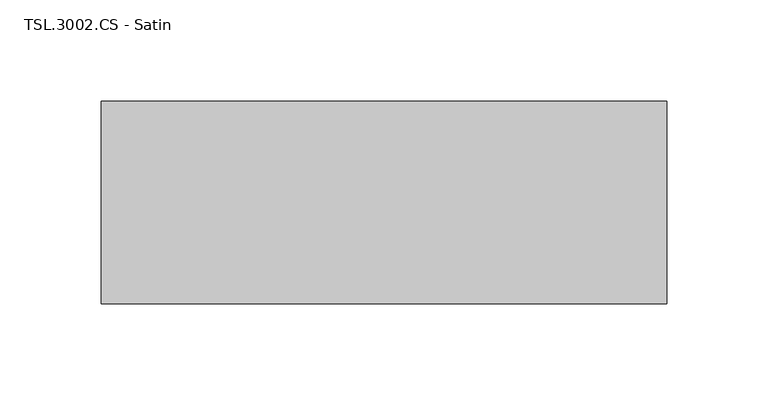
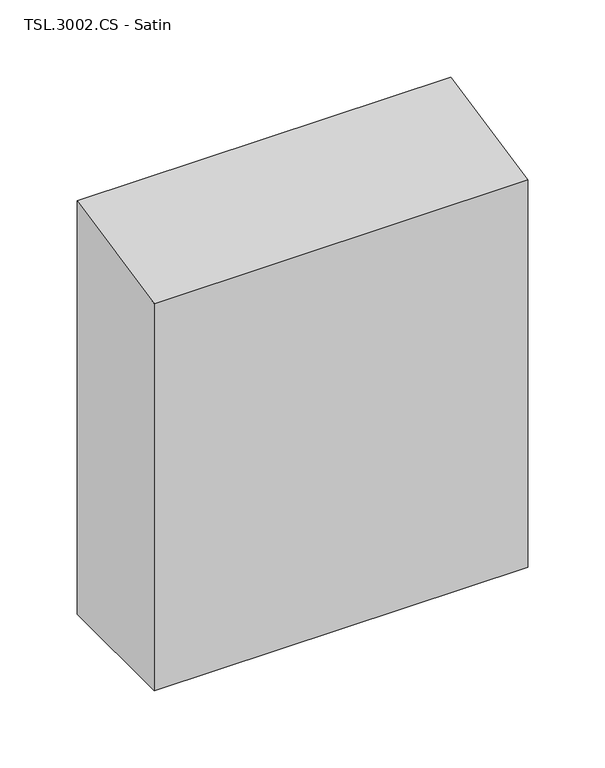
"""IFC4 building model written with IfcOpenShell, lengths in millimetres: proxy geometry, TSL_UK - TSL3002 - Hand Dryer : TSL.3002.CS - Satin."""

import ifcopenshell
import ifcopenshell.guid

model = None  # the IFC model being written
_history = None  # IfcOwnerHistory: only IFC2X3 demands one
_inside = {}  # id of a spatial element -> (the spatial element, [elements in it])
_under = {}  # id of a project, library or spatial element -> (it, [spatial elements below it])
_declared = {}  # id of a project -> (the project, [libraries it declares])
_typed = {}  # id of a type object -> (the type object, [elements of that type])
_made_of = {}  # id of a material, layer set ... -> (it, [elements and type objects made of it])


def new_model(schema):
    """Start an empty IFC model of exactly this schema.

    Asked for "IFC4X3", IfcOpenShell would pick the latest addendum, in which some entities
    have other attributes; the version numbers below select the first issue.
    IFC2X3 requires an IfcOwnerHistory on every rooted entity: one is made here for all.
    """
    global model, _history
    if schema == "IFC4X3":
        model = ifcopenshell.file(schema_version=(4, 3, 0, 0))
    else:
        model = ifcopenshell.file(schema=schema)
    _inside.clear()
    _under.clear()
    _declared.clear()
    _typed.clear()
    _made_of.clear()
    _history = None
    if model.schema == "IFC2X3":
        org = make("IfcOrganization", Name="unknown")
        user = make(
            "IfcPersonAndOrganization",
            ThePerson=make("IfcPerson", FamilyName="unknown"),
            TheOrganization=org,
        )
        app = make(
            "IfcApplication",
            ApplicationDeveloper=org,
            Version="unknown",
            ApplicationFullName="unknown",
            ApplicationIdentifier="unknown",
        )
        _history = make(
            "IfcOwnerHistory",
            OwningUser=user,
            OwningApplication=app,
            ChangeAction="ADDED",
            CreationDate=0,
        )
    return model


def make(cls, **values):
    """One entity of the class cls with the attributes given. An attribute that is None is left unset."""
    return model.create_entity(
        cls, **{name: value for name, value in values.items() if value is not None}
    )


def rooted(cls, **values):
    """An entity with a GlobalId (a new one), such as an element, a storey or a relation."""
    return make(cls, GlobalId=ifcopenshell.guid.new(), OwnerHistory=_history, **values)


def si_unit(unit_type, name, prefix=None):
    """IfcSIUnit, for example si_unit("LENGTHUNIT", "METRE", prefix="MILLI")."""
    return make("IfcSIUnit", UnitType=unit_type, Prefix=prefix, Name=name)


def assignment(units):
    """IfcUnitAssignment: the units of a project."""
    return None if units is None else make("IfcUnitAssignment", Units=units)


def point(xyz):
    """IfcCartesianPoint."""
    return None if xyz is None else make("IfcCartesianPoint", Coordinates=xyz)


def direction(xyz):
    """IfcDirection."""
    return None if xyz is None else make("IfcDirection", DirectionRatios=xyz)


def frame(location, z_axis=None, x_axis=None):
    """IfcAxis2Placement3D, a coordinate frame: its origin and axes. An axis left out is left unset."""
    return make(
        "IfcAxis2Placement3D",
        Location=point(location),
        Axis=direction(z_axis),
        RefDirection=direction(x_axis),
    )


def origin():
    """The frame at (0, 0, 0) with its axes left unset."""
    return frame((0.0, 0.0, 0.0))


def place(relative_to, where):
    """IfcLocalPlacement: puts the frame where relative to a parent placement (None: the world)."""
    return make(
        "IfcLocalPlacement", PlacementRelTo=relative_to, RelativePlacement=where
    )


def context(
    kind, dimensions, precision=None, world=None, true_north=None, identifier=None
):
    """IfcGeometricRepresentationContext, for example the 3D "Model" context."""
    return make(
        "IfcGeometricRepresentationContext",
        ContextIdentifier=identifier,
        ContextType=kind,
        CoordinateSpaceDimension=dimensions,
        Precision=precision,
        WorldCoordinateSystem=world,
        TrueNorth=true_north,
    )


def project(units=None, contexts=None):
    """IfcProject with its units and contexts."""
    return rooted(
        "IfcProject",
        Name="project",
        RepresentationContexts=contexts,
        UnitsInContext=assignment(units),
    )


def spatial(cls, under=None, at=None, **own):
    """A site, building, storey or space (cls), placed at a placement, below another one or the project."""
    s = rooted(cls, ObjectPlacement=at, **own)
    if under is not None:
        _under.setdefault(under.id(), (under, []))[1].append(s)
    return s


def polyline(points):
    """IfcPolyline through the points."""
    return make("IfcPolyline", Points=[point(p) for p in points])


def outline(outer, holes=None, kind="AREA"):
    """IfcArbitraryClosedProfileDef: a profile drawn as a closed curve; with holes, ...WithVoids."""
    if holes is None:
        return make("IfcArbitraryClosedProfileDef", ProfileType=kind, OuterCurve=outer)
    return make(
        "IfcArbitraryProfileDefWithVoids",
        ProfileType=kind,
        OuterCurve=outer,
        InnerCurves=holes,
    )


def extrude(swept, where, along, depth):
    """IfcExtrudedAreaSolid: the profile swept, set in the frame where, extruded along a direction by depth."""
    return make(
        "IfcExtrudedAreaSolid",
        SweptArea=swept,
        Position=where,
        ExtrudedDirection=direction(along),
        Depth=depth,
    )


def shape(context_of_items, identifier, shape_type, items):
    """IfcShapeRepresentation: the items that make up one representation, for example the "Body"."""
    return make(
        "IfcShapeRepresentation",
        ContextOfItems=context_of_items,
        RepresentationIdentifier=identifier,
        RepresentationType=shape_type,
        Items=items,
    )


def source(mapping_origin, context_of_items, identifier, shape_type, items):
    """IfcRepresentationMap: a shape defined once, which mapped items show again and again."""
    return make(
        "IfcRepresentationMap",
        MappingOrigin=mapping_origin,
        MappedRepresentation=shape(context_of_items, identifier, shape_type, items),
    )


def transform(
    local_origin,
    x_axis=None,
    y_axis=None,
    z_axis=None,
    scale=None,
    scale2=None,
    scale3=None,
    uniform=True,
):
    """IfcCartesianTransformationOperator3D, or its non-uniform kind. x_axis, y_axis, z_axis: its Axis1, 2, 3."""
    if uniform:
        return make(
            "IfcCartesianTransformationOperator3D",
            Axis1=direction(x_axis),
            Axis2=direction(y_axis),
            LocalOrigin=point(local_origin),
            Scale=scale,
            Axis3=direction(z_axis),
        )
    return make(
        "IfcCartesianTransformationOperator3DnonUniform",
        Axis1=direction(x_axis),
        Axis2=direction(y_axis),
        LocalOrigin=point(local_origin),
        Scale=scale,
        Axis3=direction(z_axis),
        Scale2=scale2,
        Scale3=scale3,
    )


def mapped(mapping_source, mapping_target):
    """IfcMappedItem: shows the shape of a source again, moved by a transform."""
    return make(
        "IfcMappedItem", MappingSource=mapping_source, MappingTarget=mapping_target
    )


def made_of(thing, what):
    """Note that an element or type object is made of a material, layer set ...; save() writes the relation."""
    if what is not None:
        _made_of.setdefault(what.id(), (what, []))[1].append(thing)
    return thing


def element(
    cls,
    number,
    at=None,
    inside=None,
    cuts=None,
    type_object=None,
    material=None,
    context=None,
    identifier="Body",
    shape_type=None,
    held_by="IfcProductDefinitionShape",
    body=None,
    shapes=None,
    **own,
):
    """One element of the class cls, such as IfcWall. Its Tag is "e" and its number.

    at: its placement. inside: the storey or other place that contains it. cuts: it is an
    opening in that element (IfcRelVoidsElement). A single representation is given by context,
    identifier, shape_type and body (its items); several are given by shapes. held_by: the class
    of the entity that holds the representations. save() writes the other relations.
    """
    e = rooted(cls, Tag="e%d" % number, ObjectPlacement=at, **own)
    if body is not None:
        shapes = [shape(context, identifier, shape_type, body)]
    if shapes is not None:
        e.Representation = make(held_by, Representations=shapes)
    if inside is not None:
        _inside.setdefault(inside.id(), (inside, []))[1].append(e)
    if cuts is not None:
        rooted(
            "IfcRelVoidsElement", RelatingBuildingElement=cuts, RelatedOpeningElement=e
        )
    if type_object is not None:
        _typed.setdefault(type_object.id(), (type_object, []))[1].append(e)
    return made_of(e, material)


def aggregate(whole, parts):
    """IfcRelAggregates: a whole, such as a stair, and the parts it consists of."""
    return rooted("IfcRelAggregates", RelatingObject=whole, RelatedObjects=parts)


def save(model, path):
    """Write the relations noted so far, then the file.

    IfcRelAggregates (storeys below a building ...), IfcRelContainedInSpatialStructure (elements
    in a storey), IfcRelDefinesByType, IfcRelAssociatesMaterial and IfcRelDeclares: one each for
    every whole, place, type object, material and project.
    """
    for whole, parts in _under.values():
        aggregate(whole, parts)
    for where, things in _inside.values():
        rooted(
            "IfcRelContainedInSpatialStructure",
            RelatedElements=things,
            RelatingStructure=where,
        )
    for kind, things in _typed.values():
        rooted("IfcRelDefinesByType", RelatedObjects=things, RelatingType=kind)
    for what, things in _made_of.values():
        rooted("IfcRelAssociatesMaterial", RelatedObjects=things, RelatingMaterial=what)
    for by, libraries in _declared.values():
        rooted("IfcRelDeclares", RelatingContext=by, RelatedDefinitions=libraries)
    model.write(path)


def tsl_3002_cs_satin_9505a0f1(model_context):
    return source(origin(), model_context, "Body", "SweptSolid", [
        extrude(outline(polyline([(0.0, 1000.0), (-100.0125, 1000.0), (-100.0125, 1306.3875), (0.0, 1327.025), (0.0, 1000.0)])), frame((-139.7, 0.0, 0.0), z_axis=(1.0, 0.0, 0.0), x_axis=(0.0, 1.0, 0.0)), (0.0, 0.0, 1.0), 279.4),
    ])


if __name__ == "__main__":
    model = new_model("IFC4")
    model_context = context("Model", 3, world=origin())
    ifc_project = project(units=[si_unit("LENGTHUNIT", "METRE", prefix="MILLI")], contexts=[model_context])
    site = spatial("IfcSite", under=ifc_project)
    building = spatial("IfcBuilding", under=site)
    placement = place(None, origin())
    tsl_3002_cs_satin_shape = tsl_3002_cs_satin_9505a0f1(model_context)
    element("IfcBuildingElementProxy", 1, Name="TSL_UK - TSL3002 - Hand Dryer : TSL.3002.CS - Satin", ObjectType="TSL_UK - TSL3002 - Hand Dryer : TSL.3002.CS - Satin", at=placement, inside=building, context=model_context, shape_type="MappedRepresentation", body=[
        mapped(tsl_3002_cs_satin_shape, transform((0.0, 0.0, 0.0), x_axis=(1.0, 0.0, 0.0), y_axis=(0.0, 1.0, 0.0), z_axis=(0.0, 0.0, 1.0))),
    ])
    save(model, "model.ifc")
